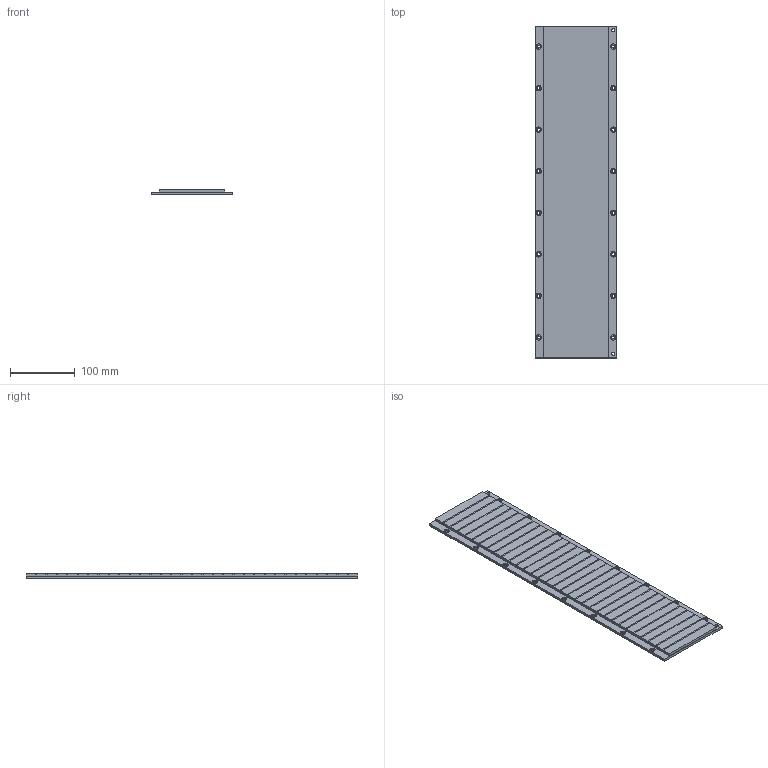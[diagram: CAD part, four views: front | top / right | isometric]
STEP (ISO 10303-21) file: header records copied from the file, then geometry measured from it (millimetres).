
FILE_DESCRIPTION((''),'2;1');
FILE_NAME('MCD100_512_001_','2007-01-13T',('Sendhil_kk'),('Kollmorgen'),'PRO/ENGINEER BY PARAMETRIC TECHNOLOGY CORPORATION, 2006080','PRO/ENGINEER BY PARAMETRIC TECHNOLOGY CORPORATION, 2006080','');
FILE_SCHEMA(('CONFIG_CONTROL_DESIGN'));
Length unit declared in the file: millimetre
Products named in the file (1): MCD100_512_001_
Bounding box: 125 x 511.3 x 8.25 mm (x, y, z)
Volume: 448049.6 mm3; surface area: 177263.7 mm2
Topology: 1 solids, 32 shells, 281 faces, 600 edges, 400 vertices
Faces by surface type: plane 213, cylinder 68
Entity records: 7598 total; most frequent: DIRECTION 1298, CARTESIAN_POINT 1281, ORIENTED_EDGE 1200, EDGE_CURVE 600, VECTOR 464, LINE 464, AXIS2_PLACEMENT_3D 417, VERTEX_POINT 400
